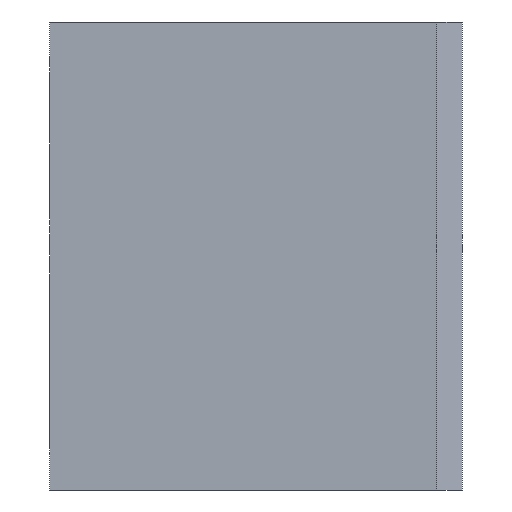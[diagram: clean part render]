
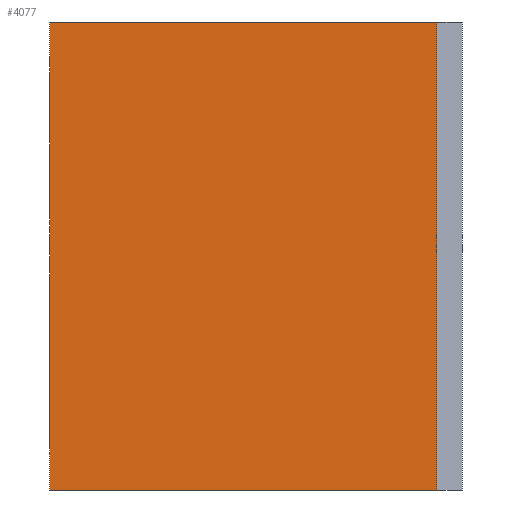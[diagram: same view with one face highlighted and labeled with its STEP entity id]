
A CAD part, left-side view. The second image highlights one B-rep face of the part: STEP entity #4077.
In plain terms, the highlighted planar face has unit normal (-1, 0, 0).
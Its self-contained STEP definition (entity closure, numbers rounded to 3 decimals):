
#2275 = VERTEX_POINT( '', #5950 );
#2751 = VERTEX_POINT( '', #6467 );
#2959 = EDGE_CURVE( '', #2751, #3197, #6691, .T. );
#3043 = EDGE_CURVE( '', #2275, #4523, #6781, .T. );
#3197 = VERTEX_POINT( '', #6950 );
#4077 = ADVANCED_FACE( '', ( #7901 ), #7902, .T. );
#4405 = EDGE_CURVE( '', #3197, #2275, #8247, .T. );
#4523 = VERTEX_POINT( '', #8375 );
#5365 = EDGE_CURVE( '', #2751, #4523, #9307, .T. );
#5950 = CARTESIAN_POINT( '', ( -10.25, -24.4, -14.75 ) );
#6467 = CARTESIAN_POINT( '', ( -10.25, 0., 14.75 ) );
#6691 = LINE( '', #11160, #11161 );
#6781 = LINE( '', #11281, #11282 );
#6950 = CARTESIAN_POINT( '', ( -10.25, 0., -14.75 ) );
#7901 = FACE_OUTER_BOUND( '', #12930, .T. );
#7902 = PLANE( '', #12931 );
#8247 = LINE( '', #13431, #13432 );
#8375 = CARTESIAN_POINT( '', ( -10.25, -24.4, 14.75 ) );
#9307 = LINE( '', #14933, #14934 );
#11160 = CARTESIAN_POINT( '', ( -10.25, 0., 14.75 ) );
#11161 = VECTOR( '', #16429, 1. );
#11281 = CARTESIAN_POINT( '', ( -10.25, -24.4, 14.75 ) );
#11282 = VECTOR( '', #16495, 1. );
#12930 = EDGE_LOOP( '', ( #17732, #17733, #17734, #17735 ) );
#12931 = AXIS2_PLACEMENT_3D( '', #17736, #17737, #17738 );
#13431 = CARTESIAN_POINT( '', ( -10.25, 0., -14.75 ) );
#13432 = VECTOR( '', #17972, 1. );
#14933 = CARTESIAN_POINT( '', ( -10.25, 0., 14.75 ) );
#14934 = VECTOR( '', #19062, 1. );
#16429 = DIRECTION( '', ( 0., 0., -1. ) );
#16495 = DIRECTION( '', ( 0., 0., 1. ) );
#17732 = ORIENTED_EDGE( '', *, *, #3043, .T. );
#17733 = ORIENTED_EDGE( '', *, *, #5365, .F. );
#17734 = ORIENTED_EDGE( '', *, *, #2959, .T. );
#17735 = ORIENTED_EDGE( '', *, *, #4405, .T. );
#17736 = CARTESIAN_POINT( '', ( -10.25, 0., 14.75 ) );
#17737 = DIRECTION( '', ( -1., 0., 0. ) );
#17738 = DIRECTION( '', ( 0., 1., 0. ) );
#17972 = DIRECTION( '', ( 0., -1., 0. ) );
#19062 = DIRECTION( '', ( 0., -1., 0. ) );
